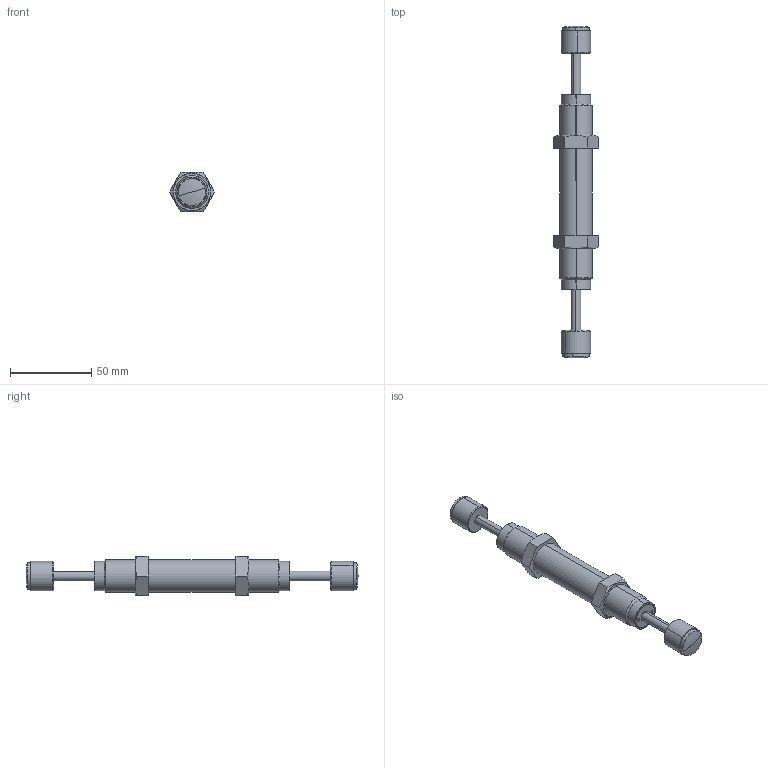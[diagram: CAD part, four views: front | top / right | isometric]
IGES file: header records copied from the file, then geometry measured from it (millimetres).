
Start section: SolidWorks IGES file using analytic representation for surfaces
Bounding box: 27.71 x 204 x 24 mm (x, y, z)
Surface area: 15491.1 mm2 (no closed solid volume)
Topology: 0 solids, 0 shells, 70 faces, 1260 edges, 1258 vertices
Faces by surface type: revolution 46, bspline 24
